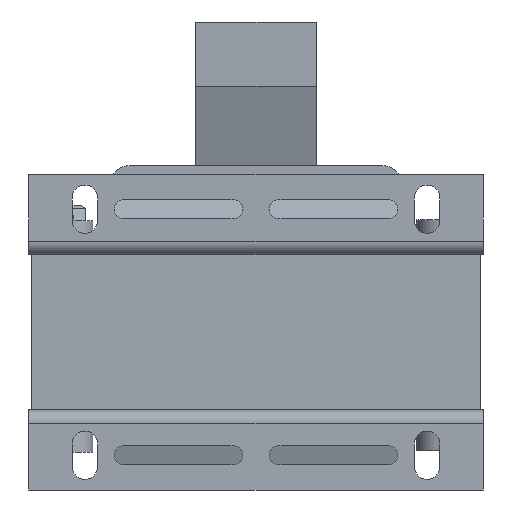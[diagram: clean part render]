
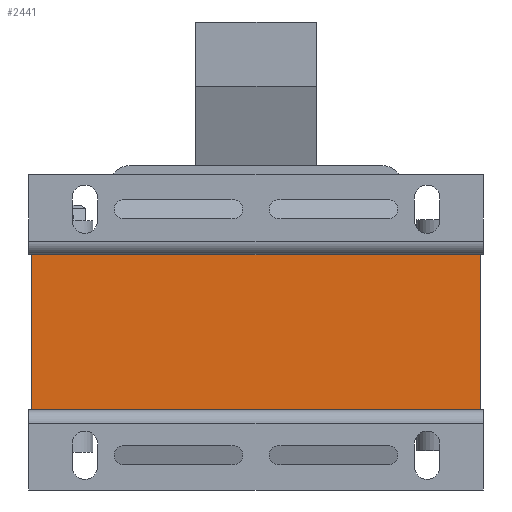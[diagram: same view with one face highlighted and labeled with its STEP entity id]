
A CAD part, front view. The second image highlights one B-rep face of the part: STEP entity #2441.
In plain terms, the highlighted planar face has unit normal (0, -1, 0).
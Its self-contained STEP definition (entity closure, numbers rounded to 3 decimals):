
#40 = CARTESIAN_POINT ( 'NONE',  ( 42., 4., -101. ) ) ;
#290 = VECTOR ( 'NONE', #3320, 1000. ) ;
#301 = CARTESIAN_POINT ( 'NONE',  ( -42., 4., -101. ) ) ;
#359 = VECTOR ( 'NONE', #5228, 1000. ) ;
#487 = ORIENTED_EDGE ( 'NONE', *, *, #491, .T. ) ;
#491 = EDGE_CURVE ( 'NONE', #2958, #4381, #578, .T. ) ;
#498 = DIRECTION ( 'NONE',  ( 1., 0., 0. ) ) ;
#578 = LINE ( 'NONE', #2605, #4867 ) ;
#689 = CARTESIAN_POINT ( 'NONE',  ( -42., 4., 14.5 ) ) ;
#907 = ORIENTED_EDGE ( 'NONE', *, *, #4107, .T. ) ;
#1088 = LINE ( 'NONE', #689, #5259 ) ;
#1152 = PLANE ( 'NONE',  #4722 ) ;
#1213 = CARTESIAN_POINT ( 'NONE',  ( -42., 4., 14.5 ) ) ;
#2051 = CARTESIAN_POINT ( 'NONE',  ( -42., 4., -101. ) ) ;
#2441 = ADVANCED_FACE ( 'NONE', ( #5221 ), #1152, .T. ) ;
#2480 = LINE ( 'NONE', #40, #290 ) ;
#2605 = CARTESIAN_POINT ( 'NONE',  ( -42., 4., -14.5 ) ) ;
#2790 = DIRECTION ( 'NONE',  ( -1., 0., 0. ) ) ;
#2958 = VERTEX_POINT ( 'NONE', #3950 ) ;
#2970 = ORIENTED_EDGE ( 'NONE', *, *, #3784, .F. ) ;
#3072 = VERTEX_POINT ( 'NONE', #4859 ) ;
#3320 = DIRECTION ( 'NONE',  ( 0., 0., 1. ) ) ;
#3552 = DIRECTION ( 'NONE',  ( 0., 0., -1. ) ) ;
#3553 = EDGE_LOOP ( 'NONE', ( #2970, #487, #5218, #907 ) ) ;
#3766 = VERTEX_POINT ( 'NONE', #1213 ) ;
#3784 = EDGE_CURVE ( 'NONE', #2958, #3766, #4073, .T. ) ;
#3840 = CARTESIAN_POINT ( 'NONE',  ( 42., 4., -14.5 ) ) ;
#3950 = CARTESIAN_POINT ( 'NONE',  ( -42., 4., -14.5 ) ) ;
#4073 = LINE ( 'NONE', #2051, #359 ) ;
#4107 = EDGE_CURVE ( 'NONE', #3072, #3766, #1088, .T. ) ;
#4381 = VERTEX_POINT ( 'NONE', #3840 ) ;
#4722 = AXIS2_PLACEMENT_3D ( 'NONE', #301, #4844, #3552 ) ;
#4844 = DIRECTION ( 'NONE',  ( 0., -1., 0. ) ) ;
#4859 = CARTESIAN_POINT ( 'NONE',  ( 42., 4., 14.5 ) ) ;
#4867 = VECTOR ( 'NONE', #498, 1000. ) ;
#5218 = ORIENTED_EDGE ( 'NONE', *, *, #5283, .T. ) ;
#5221 = FACE_OUTER_BOUND ( 'NONE', #3553, .T. ) ;
#5228 = DIRECTION ( 'NONE',  ( 0., 0., 1. ) ) ;
#5259 = VECTOR ( 'NONE', #2790, 1000. ) ;
#5283 = EDGE_CURVE ( 'NONE', #4381, #3072, #2480, .T. ) ;
